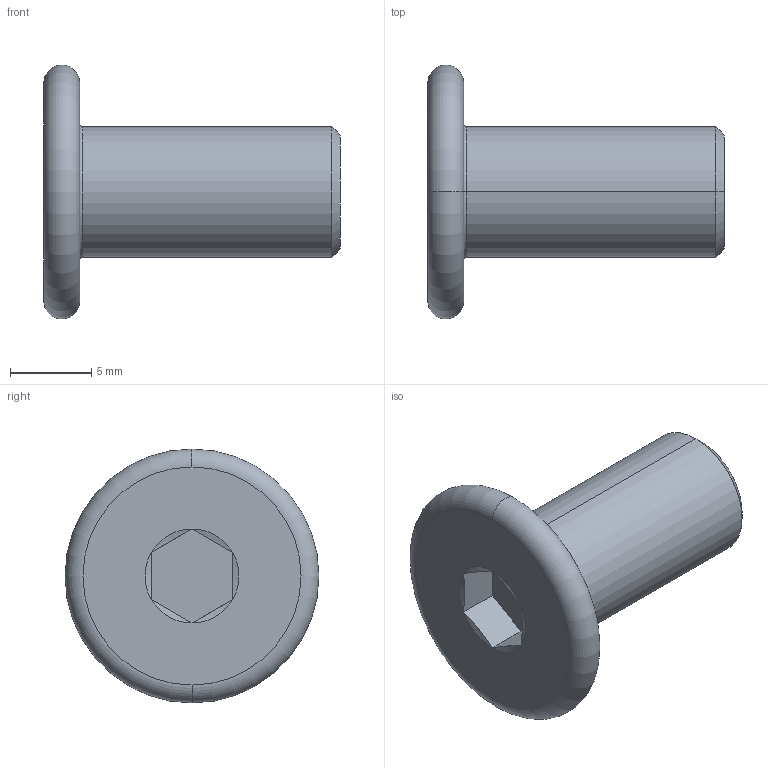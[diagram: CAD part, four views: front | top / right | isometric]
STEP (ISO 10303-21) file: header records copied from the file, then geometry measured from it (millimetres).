
FILE_DESCRIPTION (( 'STEP AP203' ), '1' );
FILE_NAME ('LGD-304M-M8x16.STEP', '2026-08-13T13:14:43', ( '' ), ( '' ), 'SwSTEP 2.0', 'SolidWorks 2020', '' );
FILE_SCHEMA (( 'CONFIG_CONTROL_DESIGN' ));
Length unit declared in the file: millimetre
Products named in the file (1): LGD-304M-M8x16
Bounding box: 18.2 x 15.6 x 15.6 mm (x, y, z)
Volume: 1143 mm3; surface area: 877.3 mm2
Topology: 1 solids, 1 shells, 24 faces, 44 edges, 24 vertices
Faces by surface type: plane 10, cone 8, torus 4, cylinder 2
Entity records: 673 total; most frequent: CARTESIAN_POINT 119, DIRECTION 110, ORIENTED_EDGE 88, AXIS2_PLACEMENT_3D 47, EDGE_CURVE 44, EDGE_LOOP 26, VERTEX_POINT 24, FACE_OUTER_BOUND 24
